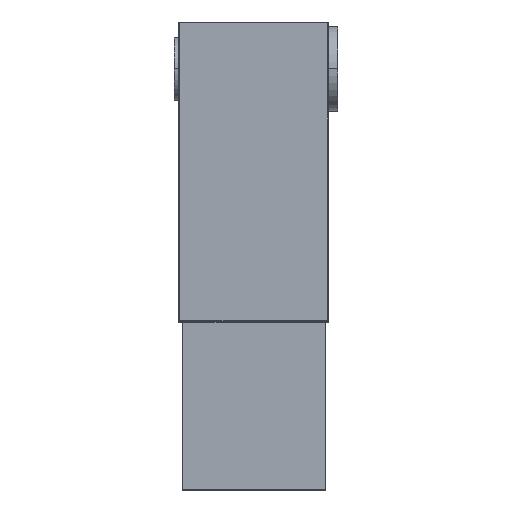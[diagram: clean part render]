
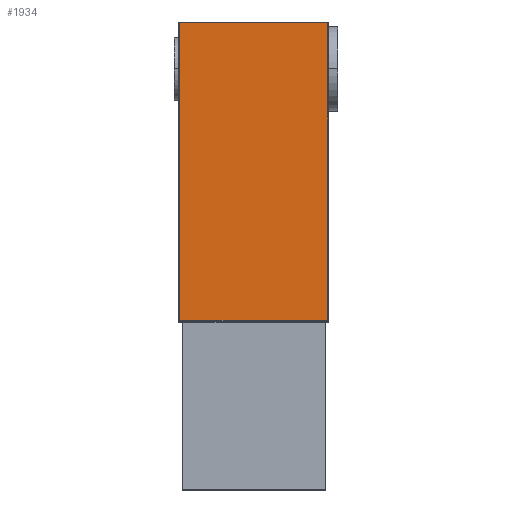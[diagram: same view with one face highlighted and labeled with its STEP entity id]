
A CAD part, top view. The second image highlights one B-rep face of the part: STEP entity #1934.
In plain terms, the highlighted planar face has unit normal (0, 0, 1).
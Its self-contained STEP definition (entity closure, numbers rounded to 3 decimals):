
#98=DIRECTION('',(0.,-1.,0.));
#99=VECTOR('',#98,31.8);
#100=CARTESIAN_POINT('',(-7.9,15.9,27.5));
#101=LINE('',#100,#99);
#114=DIRECTION('',(1.,0.,0.));
#115=VECTOR('',#114,15.8);
#116=CARTESIAN_POINT('',(-7.9,-15.9,27.5));
#117=LINE('',#116,#115);
#276=DIRECTION('',(0.,-1.,0.));
#277=VECTOR('',#276,31.8);
#278=CARTESIAN_POINT('',(7.9,15.9,27.5));
#279=LINE('',#278,#277);
#296=DIRECTION('',(1.,0.,0.));
#297=VECTOR('',#296,15.8);
#298=CARTESIAN_POINT('',(-7.9,15.9,27.5));
#299=LINE('',#298,#297);
#1216=CARTESIAN_POINT('',(-7.9,15.9,27.5));
#1217=CARTESIAN_POINT('',(-7.9,-15.9,27.5));
#1218=VERTEX_POINT('',#1216);
#1219=VERTEX_POINT('',#1217);
#1224=CARTESIAN_POINT('',(7.9,15.9,27.5));
#1225=CARTESIAN_POINT('',(7.9,-15.9,27.5));
#1226=VERTEX_POINT('',#1224);
#1227=VERTEX_POINT('',#1225);
#1922=CARTESIAN_POINT('',(-7.9,15.9,27.5));
#1923=DIRECTION('',(0.,0.,1.));
#1924=DIRECTION('',(0.,-1.,0.));
#1925=AXIS2_PLACEMENT_3D('',#1922,#1923,#1924);
#1926=PLANE('',#1925);
#1927=ORIENTED_EDGE('',*,*,#1704,.F.);
#1929=ORIENTED_EDGE('',*,*,#1928,.T.);
#1930=ORIENTED_EDGE('',*,*,#1901,.T.);
#1931=ORIENTED_EDGE('',*,*,#1732,.F.);
#1932=EDGE_LOOP('',(#1927,#1929,#1930,#1931));
#1933=FACE_OUTER_BOUND('',#1932,.F.);
#1934=ADVANCED_FACE('',(#1933),#1926,.T.);
#1704=EDGE_CURVE('',#1218,#1219,#101,.T.);
#1732=EDGE_CURVE('',#1219,#1227,#117,.T.);
#1901=EDGE_CURVE('',#1226,#1227,#279,.T.);
#1928=EDGE_CURVE('',#1218,#1226,#299,.T.);
